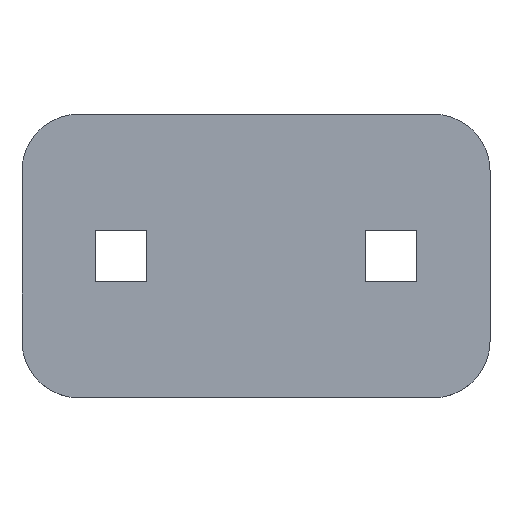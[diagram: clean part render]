
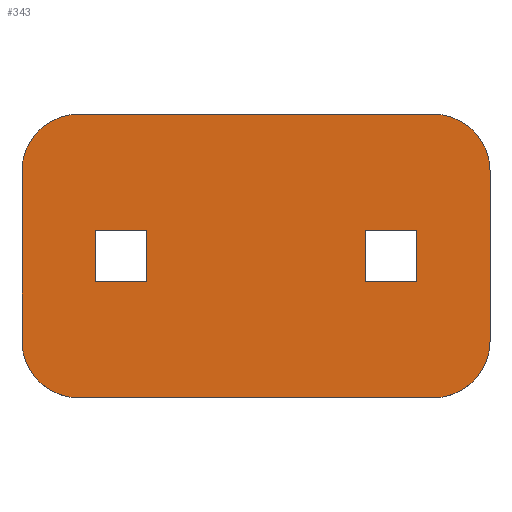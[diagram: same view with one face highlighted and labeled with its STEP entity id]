
A CAD part, top view. The second image highlights one B-rep face of the part: STEP entity #343.
In plain terms, the highlighted planar face has unit normal (0, 0, 1).
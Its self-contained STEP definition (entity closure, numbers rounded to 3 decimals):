
#15=FACE_BOUND('',#54,.T.);
#16=FACE_BOUND('',#55,.T.);
#20=PLANE('',#386);
#35=FACE_OUTER_BOUND('',#53,.T.);
#53=EDGE_LOOP('',(#249,#250,#251,#252,#253,#254,#255,#256));
#54=EDGE_LOOP('',(#257,#258,#259,#260));
#55=EDGE_LOOP('',(#261,#262,#263,#264));
#75=LINE('',#514,#115);
#78=LINE('',#520,#118);
#79=LINE('',#524,#119);
#80=LINE('',#528,#120);
#81=LINE('',#532,#121);
#82=LINE('',#534,#122);
#83=LINE('',#536,#123);
#84=LINE('',#537,#124);
#85=LINE('',#540,#125);
#86=LINE('',#542,#126);
#87=LINE('',#544,#127);
#88=LINE('',#545,#128);
#115=VECTOR('',#420,10.);
#118=VECTOR('',#425,10.);
#119=VECTOR('',#428,10.);
#120=VECTOR('',#431,10.);
#121=VECTOR('',#434,10.);
#122=VECTOR('',#435,10.);
#123=VECTOR('',#436,10.);
#124=VECTOR('',#437,10.);
#125=VECTOR('',#438,10.);
#126=VECTOR('',#439,10.);
#127=VECTOR('',#440,10.);
#128=VECTOR('',#441,10.);
#153=CIRCLE('',#383,10.);
#155=CIRCLE('',#387,10.);
#156=CIRCLE('',#388,10.);
#157=CIRCLE('',#389,10.);
#161=VERTEX_POINT('',#504);
#162=VERTEX_POINT('',#505);
#165=VERTEX_POINT('',#513);
#167=VERTEX_POINT('',#519);
#168=VERTEX_POINT('',#521);
#169=VERTEX_POINT('',#523);
#170=VERTEX_POINT('',#525);
#171=VERTEX_POINT('',#527);
#172=VERTEX_POINT('',#530);
#173=VERTEX_POINT('',#531);
#174=VERTEX_POINT('',#533);
#175=VERTEX_POINT('',#535);
#176=VERTEX_POINT('',#538);
#177=VERTEX_POINT('',#539);
#178=VERTEX_POINT('',#541);
#179=VERTEX_POINT('',#543);
#193=EDGE_CURVE('',#161,#162,#153,.T.);
#197=EDGE_CURVE('',#165,#162,#75,.T.);
#200=EDGE_CURVE('',#161,#167,#78,.T.);
#201=EDGE_CURVE('',#168,#167,#155,.T.);
#202=EDGE_CURVE('',#168,#169,#79,.T.);
#203=EDGE_CURVE('',#170,#169,#156,.T.);
#204=EDGE_CURVE('',#170,#171,#80,.T.);
#205=EDGE_CURVE('',#165,#171,#157,.T.);
#206=EDGE_CURVE('',#172,#173,#81,.T.);
#207=EDGE_CURVE('',#173,#174,#82,.T.);
#208=EDGE_CURVE('',#174,#175,#83,.T.);
#209=EDGE_CURVE('',#175,#172,#84,.T.);
#210=EDGE_CURVE('',#176,#177,#85,.T.);
#211=EDGE_CURVE('',#177,#178,#86,.T.);
#212=EDGE_CURVE('',#178,#179,#87,.T.);
#213=EDGE_CURVE('',#179,#176,#88,.T.);
#249=ORIENTED_EDGE('',*,*,#193,.F.);
#250=ORIENTED_EDGE('',*,*,#200,.T.);
#251=ORIENTED_EDGE('',*,*,#201,.F.);
#252=ORIENTED_EDGE('',*,*,#202,.T.);
#253=ORIENTED_EDGE('',*,*,#203,.F.);
#254=ORIENTED_EDGE('',*,*,#204,.T.);
#255=ORIENTED_EDGE('',*,*,#205,.F.);
#256=ORIENTED_EDGE('',*,*,#197,.T.);
#257=ORIENTED_EDGE('',*,*,#206,.T.);
#258=ORIENTED_EDGE('',*,*,#207,.T.);
#259=ORIENTED_EDGE('',*,*,#208,.T.);
#260=ORIENTED_EDGE('',*,*,#209,.T.);
#261=ORIENTED_EDGE('',*,*,#210,.T.);
#262=ORIENTED_EDGE('',*,*,#211,.T.);
#263=ORIENTED_EDGE('',*,*,#212,.T.);
#264=ORIENTED_EDGE('',*,*,#213,.T.);
#343=ADVANCED_FACE('',(#35,#15,#16),#20,.T.);
#383=AXIS2_PLACEMENT_3D('',#506,#412,#413);
#386=AXIS2_PLACEMENT_3D('',#518,#423,#424);
#387=AXIS2_PLACEMENT_3D('',#522,#426,#427);
#388=AXIS2_PLACEMENT_3D('',#526,#429,#430);
#389=AXIS2_PLACEMENT_3D('',#529,#432,#433);
#412=DIRECTION('center_axis',(0.,0.,-1.));
#413=DIRECTION('ref_axis',(-0.707,-0.707,0.));
#420=DIRECTION('',(0.,-1.,0.));
#423=DIRECTION('center_axis',(0.,0.,1.));
#424=DIRECTION('ref_axis',(1.,0.,0.));
#425=DIRECTION('',(1.,0.,0.));
#426=DIRECTION('center_axis',(0.,0.,-1.));
#427=DIRECTION('ref_axis',(0.707,-0.707,0.));
#428=DIRECTION('',(0.,1.,0.));
#429=DIRECTION('center_axis',(0.,0.,-1.));
#430=DIRECTION('ref_axis',(0.707,0.707,0.));
#431=DIRECTION('',(-1.,0.,0.));
#432=DIRECTION('center_axis',(0.,0.,-1.));
#433=DIRECTION('ref_axis',(-0.707,0.707,0.));
#434=DIRECTION('',(0.,-1.,0.));
#435=DIRECTION('',(-1.,0.,0.));
#436=DIRECTION('',(0.,1.,0.));
#437=DIRECTION('',(1.,0.,0.));
#438=DIRECTION('',(1.,0.,0.));
#439=DIRECTION('',(0.,-1.,0.));
#440=DIRECTION('',(-1.,0.,0.));
#441=DIRECTION('',(0.,1.,0.));
#504=CARTESIAN_POINT('',(-40.,-25.,8.));
#505=CARTESIAN_POINT('',(-50.,-15.,8.));
#506=CARTESIAN_POINT('Origin',(-40.,-15.,8.));
#513=CARTESIAN_POINT('',(-50.,15.,8.));
#514=CARTESIAN_POINT('',(-50.,25.,8.));
#518=CARTESIAN_POINT('Origin',(-8.75,0.,8.));
#519=CARTESIAN_POINT('',(22.5,-25.,8.));
#520=CARTESIAN_POINT('',(-50.,-25.,8.));
#521=CARTESIAN_POINT('',(32.5,-15.,8.));
#522=CARTESIAN_POINT('Origin',(22.5,-15.,8.));
#523=CARTESIAN_POINT('',(32.5,15.,8.));
#524=CARTESIAN_POINT('',(32.5,-25.,8.));
#525=CARTESIAN_POINT('',(22.5,25.,8.));
#526=CARTESIAN_POINT('Origin',(22.5,15.,8.));
#527=CARTESIAN_POINT('',(-40.,25.,8.));
#528=CARTESIAN_POINT('',(32.5,25.,8.));
#529=CARTESIAN_POINT('Origin',(-40.,15.,8.));
#530=CARTESIAN_POINT('',(19.5,4.5,8.));
#531=CARTESIAN_POINT('',(19.5,-4.5,8.));
#532=CARTESIAN_POINT('',(19.5,4.5,8.));
#533=CARTESIAN_POINT('',(10.5,-4.5,8.));
#534=CARTESIAN_POINT('',(19.5,-4.5,8.));
#535=CARTESIAN_POINT('',(10.5,4.5,8.));
#536=CARTESIAN_POINT('',(10.5,-4.5,8.));
#537=CARTESIAN_POINT('',(10.5,4.5,8.));
#538=CARTESIAN_POINT('',(-37.,4.5,8.));
#539=CARTESIAN_POINT('',(-28.,4.5,8.));
#540=CARTESIAN_POINT('',(-37.,4.5,8.));
#541=CARTESIAN_POINT('',(-28.,-4.5,8.));
#542=CARTESIAN_POINT('',(-28.,4.5,8.));
#543=CARTESIAN_POINT('',(-37.,-4.5,8.));
#544=CARTESIAN_POINT('',(-28.,-4.5,8.));
#545=CARTESIAN_POINT('',(-37.,-4.5,8.));
